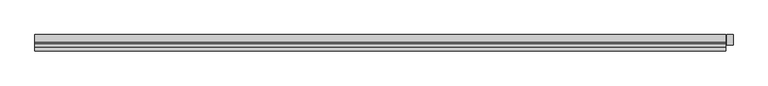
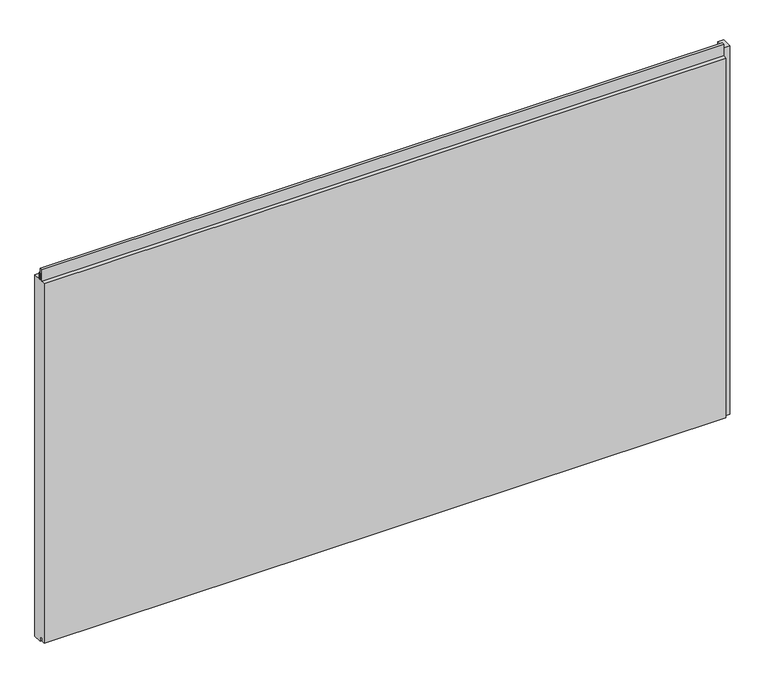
"""IFC4 building model written with IfcOpenShell, lengths in millimetres: plate geometry, Trimo_Qbiss Screen_Normal Panel-HORIZONTAL : HR - B-F."""

from ifc_helpers import new_model, si_unit, frame, origin, place, context, project, spatial, polyline, outline, extrude, source, transform, mapped, element, save


def plate_6b4a1e86(model_context):
    return source(origin(), model_context, "Body", "SweptSolid", [
        extrude(outline(polyline([(1094.5, 67.8978162), (1075.5, 67.8978162), (1075.5, 100.0), (1094.5, 100.0), (1094.5, 67.8978162)])), frame((0.0, 0.0, -1.0), z_axis=(0.0, 0.0, 1.0), x_axis=(1.0, 0.0, 0.0)), (0.0, 0.0, 1.0), 1200.0),
        extrude(outline(polyline([(1072.5, 76.0), (1072.5, 71.0), (-1026.0, 71.0), (-1026.0, 76.0), (1072.5, 76.0)])), frame((0.0, 0.0, 1178.0), z_axis=(0.0, 0.0, 1.0), x_axis=(1.0, 0.0, 0.0)), (0.0, 0.0, 1.0), 21.0),
        extrude(outline(polyline([(71.0, 1177.0), (100.0, 1177.0), (100.0, 0.0), (72.0, 0.0), (72.0, 15.5), (62.0, 15.5), (62.0, 7.0), (50.0, 7.0), (50.0, 1177.0), (63.0, 1177.0), (63.0, 1214.5), (71.0, 1214.5), (71.0, 1177.0)])), frame((-1026.0, 0.0, 0.0), z_axis=(1.0, 0.0, 0.0), x_axis=(0.0, 1.0, 0.0)), (0.0, 0.0, 1.0), 2098.5),
    ])


if __name__ == "__main__":
    model = new_model("IFC4")
    model_context = context("Model", 3, world=origin())
    ifc_project = project(units=[si_unit("LENGTHUNIT", "METRE", prefix="MILLI")], contexts=[model_context])
    site = spatial("IfcSite", under=ifc_project)
    building = spatial("IfcBuilding", under=site)
    placement = place(None, origin())
    plate_shape = plate_6b4a1e86(model_context)
    element("IfcPlate", 1, ObjectType="Trimo_Qbiss Screen_Normal Panel-HORIZONTAL : HR - B-F", at=placement, inside=building, context=model_context, shape_type="MappedRepresentation", body=[
        mapped(plate_shape, transform((0.0, 0.0, 0.0), x_axis=(1.0, 0.0, 0.0), y_axis=(0.0, 1.0, 0.0), z_axis=(0.0, 0.0, 1.0))),
    ])
    save(model, "model.ifc")
